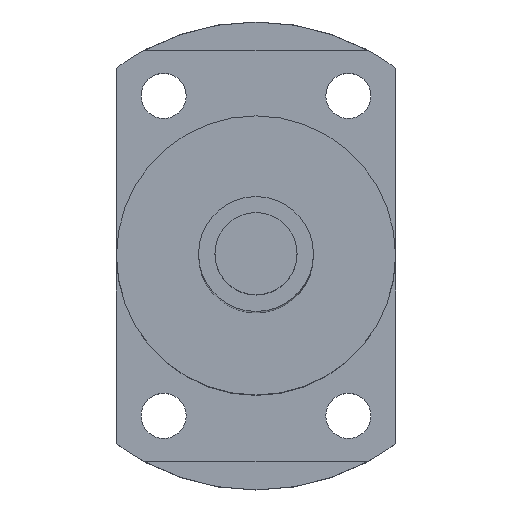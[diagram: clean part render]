
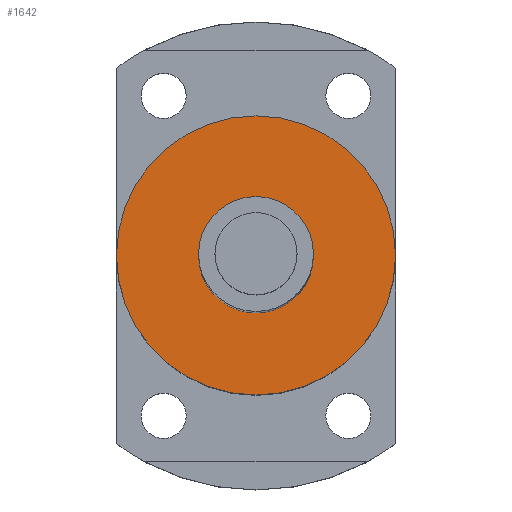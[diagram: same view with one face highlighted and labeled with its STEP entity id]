
A CAD part, top view. The second image highlights one B-rep face of the part: STEP entity #1642.
In plain terms, the highlighted planar face has unit normal (0, 0, 1).
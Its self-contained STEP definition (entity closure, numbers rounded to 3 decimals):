
#507=CARTESIAN_POINT('',(0.,0.,199.5));
#508=DIRECTION('',(0.,0.,1.));
#509=DIRECTION('',(1.,0.,0.));
#510=AXIS2_PLACEMENT_3D('',#507,#508,#509);
#512=CARTESIAN_POINT('',(0.,0.,199.5));
#513=DIRECTION('',(0.,0.,1.));
#514=DIRECTION('',(-1.,0.,0.));
#515=AXIS2_PLACEMENT_3D('',#512,#513,#514);
#517=CARTESIAN_POINT('',(0.,0.,199.5));
#518=DIRECTION('',(0.,0.,1.));
#519=DIRECTION('',(1.,0.,0.));
#520=AXIS2_PLACEMENT_3D('',#517,#518,#519);
#522=CARTESIAN_POINT('',(0.,0.,199.5));
#523=DIRECTION('',(0.,0.,1.));
#524=DIRECTION('',(-1.,0.,0.));
#525=AXIS2_PLACEMENT_3D('',#522,#523,#524);
#749=CARTESIAN_POINT('',(17.,0.,199.5));
#750=CARTESIAN_POINT('',(-17.,0.,199.5));
#751=VERTEX_POINT('',#749);
#752=VERTEX_POINT('',#750);
#761=CARTESIAN_POINT('',(7.,0.,199.5));
#762=CARTESIAN_POINT('',(-7.,0.,199.5));
#763=VERTEX_POINT('',#761);
#764=VERTEX_POINT('',#762);
#1627=CARTESIAN_POINT('',(0.,0.,199.5));
#1628=DIRECTION('',(0.,0.,1.));
#1629=DIRECTION('',(1.,0.,0.));
#1630=AXIS2_PLACEMENT_3D('',#1627,#1628,#1629);
#1631=PLANE('',#1630);
#1632=ORIENTED_EDGE('',*,*,#1607,.F.);
#1633=ORIENTED_EDGE('',*,*,#1621,.F.);
#1634=EDGE_LOOP('',(#1632,#1633));
#1635=FACE_OUTER_BOUND('',#1634,.F.);
#1637=ORIENTED_EDGE('',*,*,#1636,.T.);
#1639=ORIENTED_EDGE('',*,*,#1638,.T.);
#1640=EDGE_LOOP('',(#1637,#1639));
#1641=FACE_BOUND('',#1640,.F.);
#1642=ADVANCED_FACE('',(#1635,#1641),#1631,.T.);
#511=CIRCLE('',#510,17.);
#516=CIRCLE('',#515,17.);
#521=CIRCLE('',#520,7.);
#526=CIRCLE('',#525,7.);
#1607=EDGE_CURVE('',#751,#752,#511,.T.);
#1621=EDGE_CURVE('',#752,#751,#516,.T.);
#1636=EDGE_CURVE('',#763,#764,#521,.T.);
#1638=EDGE_CURVE('',#764,#763,#526,.T.);
